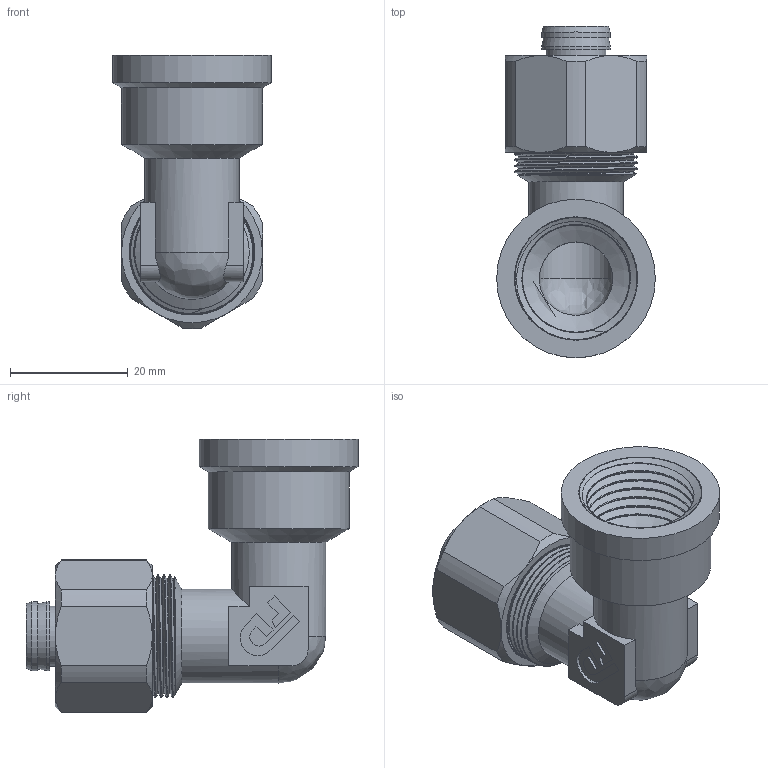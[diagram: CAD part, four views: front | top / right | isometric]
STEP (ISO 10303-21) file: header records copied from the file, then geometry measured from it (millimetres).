
FILE_DESCRIPTION(/* description */ (''),/* implementation_level */ '2;1');
FILE_NAME(/* name */ 'C:\Users\Doom\Desktop\Фадотех\Обжим\RFU11 30.03.2020\RFU11 30.03.2020.stp',/* time_stamp */ '2022-06-01T15:40:25+03:00',/* author */ ('Doom'),/* organization */ (''),/* preprocessor_version */ 'ST-DEVELOPER v18',/* originating_system */ 'Autodesk Inventor 2020',/* authorisation */ '');
FILE_SCHEMA (('AUTOMOTIVE_DESIGN { 1 0 10303 214 3 1 1 }'));
Length unit declared in the file: millimetre
Products named in the file (5): RFU11 30.03.2020; RFU11 30.03.2020_1; FADO MC Nut-16 15.02.2020; FADO MC Socket-16 15.02.2020; Olive 16 15.02.2020
Assembly tree (4 placements, depth 2):
  RFU11 30.03.2020
    RFU11 30.03.2020_1
    FADO MC Nut-16 15.02.2020
    FADO MC Socket-16 15.02.2020
    Olive 16 15.02.2020
Bounding box: 27 x 56.5 x 46.49 mm (x, y, z)
Volume: 14212.8 mm3; surface area: 20450.2 mm2
Topology: 7 solids, 7 shells, 580 faces, 1590 edges, 1063 vertices
Faces by surface type: bspline 262, plane 188, cylinder 99, cone 31
Full cylindrical faces by diameter (mm): 8.5 x1, 10.2 x2, 11.7 x4, 12.5 x2, 12.6 x1, 14.7 x2, 15.5 x1, 16 x2, 16.5 x1, 18.26 x7, 19 x1, 19.5 x1, 19.517 x2, 19.867 x12, 20.95 x2, 21 x11, 21.35 x2, 24 x1, 27 x1
Entity records: 37497 total; most frequent: CARTESIAN_POINT 24392, ORIENTED_EDGE 3160, DIRECTION 1869, EDGE_CURVE 1580, VERTEX_POINT 1059, LINE 659, VECTOR 659, EDGE_LOOP 637
